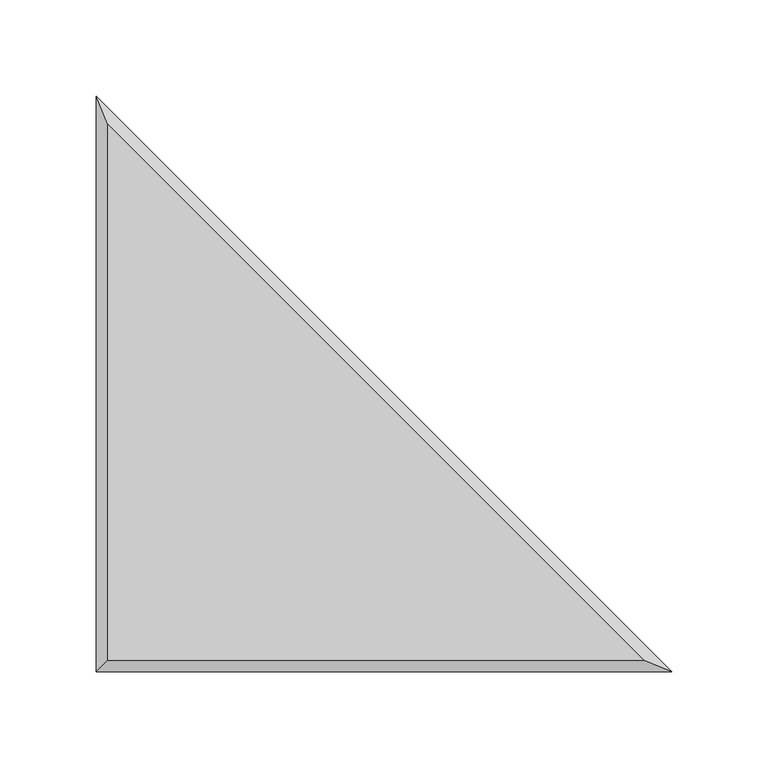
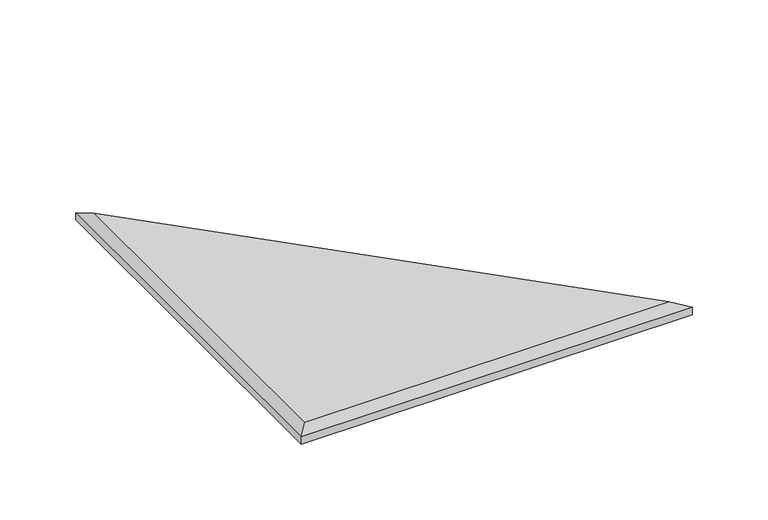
"""IFC4 building model written with IfcOpenShell, lengths in millimetres: proxy geometry, Wall_Akebia 1.3dm."""

from ifc_helpers import new_model, si_unit, origin, place, context, project, spatial, faceted_brep, source, transform, mapped, element, save


def generic_models_22719b0b(model_context):
    return source(origin(), model_context, "Body", "Brep", [
        faceted_brep([(-653.4600107, -87.6354504, 0.0), (-653.4600107, 210.8145496, 0.0), (-355.0100107, -87.6354504, 0.0), (-653.4600107, -87.6354504, 6.0), (-355.0100107, -87.6354504, 6.0), (-653.4600107, 210.8145496, 6.0), (-647.4600107, 196.3292682, 12.0), (-647.4600107, -81.6354504, 12.0), (-369.4952921, -81.6354504, 12.0)], [[[0, 1, 2]], [[3, 0, 2, 4]], [[4, 2, 1, 5]], [[5, 1, 0, 3]], [[6, 7, 8]], [[3, 4, 8, 7]], [[4, 5, 6, 8]], [[5, 3, 7, 6]]]),
    ])


if __name__ == "__main__":
    model = new_model("IFC4")
    model_context = context("Model", 3, world=origin())
    ifc_project = project(units=[si_unit("LENGTHUNIT", "METRE", prefix="MILLI")], contexts=[model_context])
    site = spatial("IfcSite", under=ifc_project)
    building = spatial("IfcBuilding", under=site)
    placement = place(None, origin())
    generic_models_shape = generic_models_22719b0b(model_context)
    element("IfcBuildingElementProxy", 1, Name="Wall_Akebia 1.3dm", ObjectType="Wall_Akebia 1.3dm", at=placement, inside=building, context=model_context, shape_type="MappedRepresentation", body=[
        mapped(generic_models_shape, transform((0.0, 0.0, 0.0), x_axis=(1.0, 0.0, 0.0), y_axis=(0.0, 1.0, 0.0), z_axis=(0.0, 0.0, 1.0))),
    ])
    save(model, "model.ifc")
